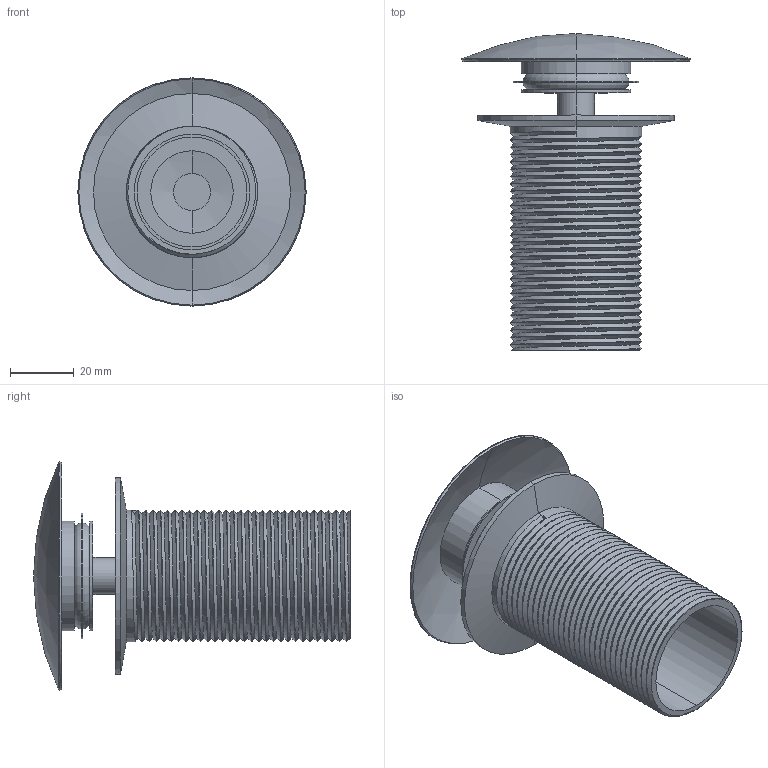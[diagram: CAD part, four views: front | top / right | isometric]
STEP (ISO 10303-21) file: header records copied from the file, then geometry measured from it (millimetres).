
FILE_DESCRIPTION (( 'STEP AP203' ), '1' );
FILE_NAME ('SF030.STEP', '2016-08-16T10:43:54', ( 'FATÝH' ), ( '' ), 'SwSTEP 2.0', 'SolidWorks 2016', '' );
FILE_SCHEMA (( 'CONFIG_CONTROL_DESIGN' ));
Length unit declared in the file: millimetre
Products named in the file (1): SF030
Bounding box: 71.83 x 99.69 x 71.83 mm (x, y, z)
Volume: 34938.9 mm3; surface area: 41205.4 mm2
Topology: 4 solids, 4 shells, 117 faces, 290 edges, 186 vertices
Faces by surface type: cylinder 85, plane 12, sphere 8, torus 6, cone 4, bspline 2
Entity records: 7514 total; most frequent: CARTESIAN_POINT 4957, ORIENTED_EDGE 580, DIRECTION 476, EDGE_CURVE 290, AXIS2_PLACEMENT_3D 192, VERTEX_POINT 186, EDGE_LOOP 126, FACE_OUTER_BOUND 117
